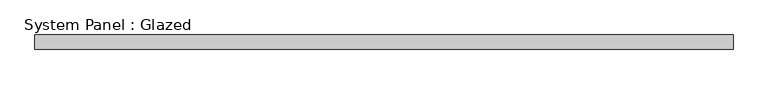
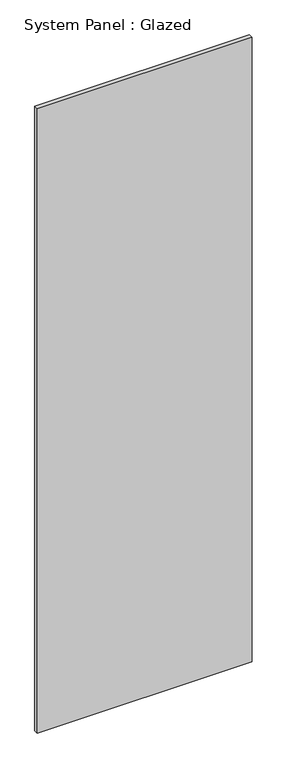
"""IFC4 building model written with IfcOpenShell, lengths in millimetres: plate geometry, System Panel : Glazed."""

from ifc_helpers import new_model, si_unit, origin, origin_with_axes, place, context, project, spatial, polyline, outline, extrude, source, transform, mapped, element, save


def system_panel_glazed_2b3d2baa(model_context):
    return source(origin(), model_context, "Body", "SweptSolid", [
        extrude(outline(polyline([(609.6, 19.05), (-609.6, 19.05), (-609.6, 44.45), (609.6, 44.45), (609.6, 19.05)])), origin_with_axes(), (0.0, 0.0, 1.0), 3746.5),
    ])


if __name__ == "__main__":
    model = new_model("IFC4")
    model_context = context("Model", 3, world=origin())
    ifc_project = project(units=[si_unit("LENGTHUNIT", "METRE", prefix="MILLI")], contexts=[model_context])
    site = spatial("IfcSite", under=ifc_project)
    building = spatial("IfcBuilding", under=site)
    placement = place(None, origin())
    system_panel_glazed_shape = system_panel_glazed_2b3d2baa(model_context)
    element("IfcPlate", 1, ObjectType="System Panel : Glazed", at=placement, inside=building, context=model_context, shape_type="MappedRepresentation", body=[
        mapped(system_panel_glazed_shape, transform((0.0, 0.0, 0.0), x_axis=(1.0, 0.0, 0.0), y_axis=(0.0, 1.0, 0.0), z_axis=(0.0, 0.0, 1.0))),
    ])
    save(model, "model.ifc")
